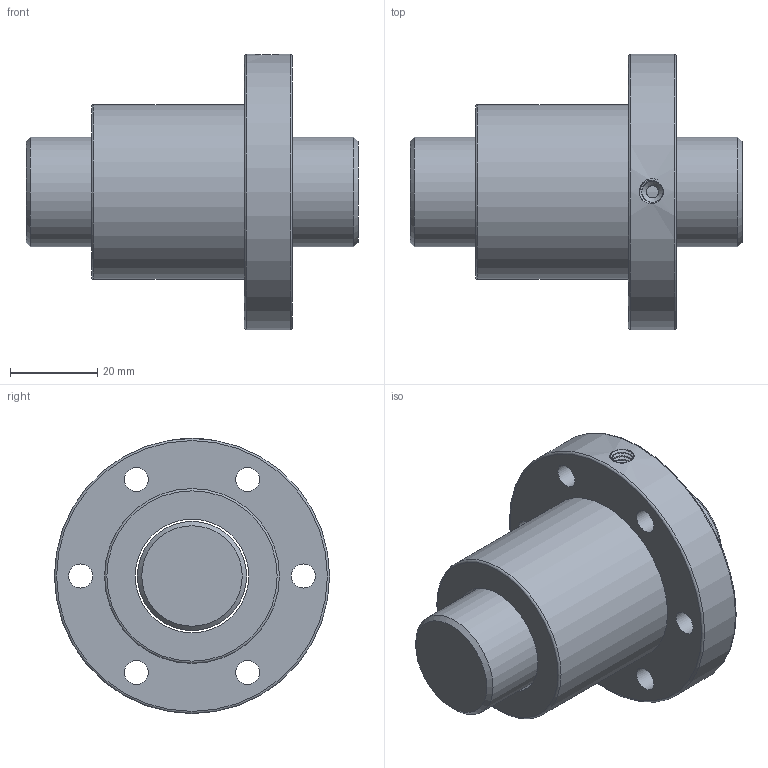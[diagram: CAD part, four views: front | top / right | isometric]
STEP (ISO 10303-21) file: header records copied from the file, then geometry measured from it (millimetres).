
FILE_DESCRIPTION (( 'STEP AP203' ), '1' );
FILE_NAME ('SFI02504-4.STEP', '2023-08-16T03:34:26', ( '' ), ( '' ), 'SwSTEP 2.0', 'SolidWorks 2022', '' );
FILE_SCHEMA (( 'CONFIG_CONTROL_DESIGN' ));
Length unit declared in the file: millimetre
Products named in the file (1): SFI02504-4
Bounding box: 76 x 63 x 63 mm (x, y, z)
Volume: 87652.3 mm3; surface area: 23802.3 mm2
Topology: 2 solids, 2 shells, 39 faces, 76 edges, 48 vertices
Faces by surface type: cylinder 19, plane 12, cone 3, torus 3, bspline 2
Full cylindrical faces by diameter (mm): 2.8 x1, 5.5 x6, 9.5 x6, 25 x1, 26 x1, 40 x1, 63 x1
Entity records: 2889 total; most frequent: CARTESIAN_POINT 2072, DIRECTION 158, ORIENTED_EDGE 104, EDGE_LOOP 85, AXIS2_PLACEMENT_3D 79, FACE_OUTER_BOUND 59, EDGE_CURVE 52, VERTEX_POINT 47
